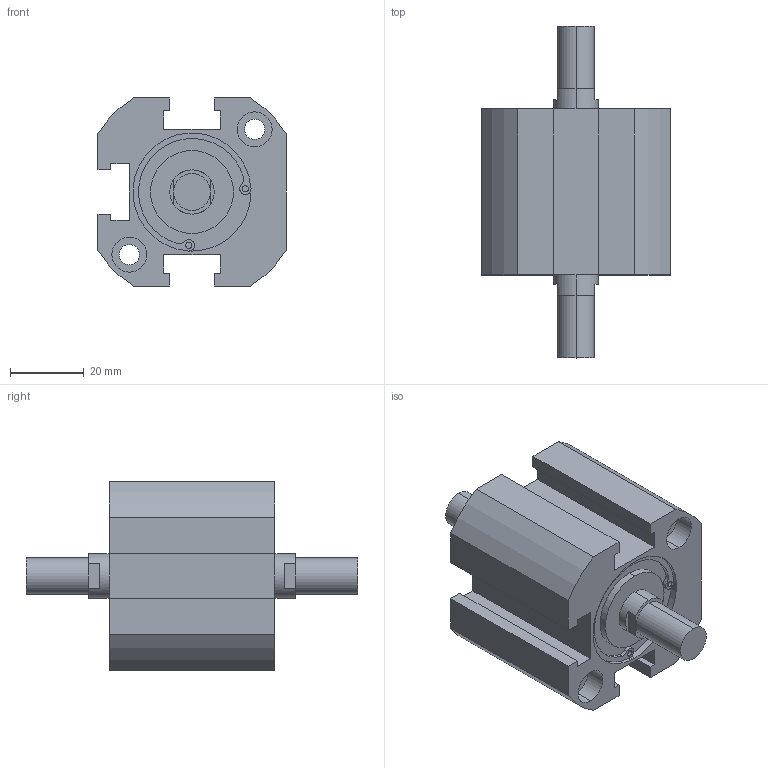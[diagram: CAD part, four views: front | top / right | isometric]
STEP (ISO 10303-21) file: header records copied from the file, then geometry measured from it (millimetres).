
FILE_DESCRIPTION (( 'STEP AP203' ), '1' );
FILE_NAME ('XG#M7-32D-10.STEP', '2016-05-24T02:23:42', ( '' ), ( '' ), 'SwSTEP 2.0', 'SolidWorks 2014', '' );
FILE_SCHEMA (( 'CONFIG_CONTROL_DESIGN' ));
Length unit declared in the file: millimetre
Products named in the file (1): XG#M7-32D-10
Bounding box: 51 x 90 x 51 mm (x, y, z)
Volume: 91540.6 mm3; surface area: 20157.4 mm2
Topology: 1 solids, 1 shells, 133 faces, 333 edges, 216 vertices
Faces by surface type: cylinder 65, plane 60, cone 8
Entity records: 4078 total; most frequent: DIRECTION 747, CARTESIAN_POINT 679, ORIENTED_EDGE 658, EDGE_CURVE 329, AXIS2_PLACEMENT_3D 284, VERTEX_POINT 216, VECTOR 179, LINE 179
